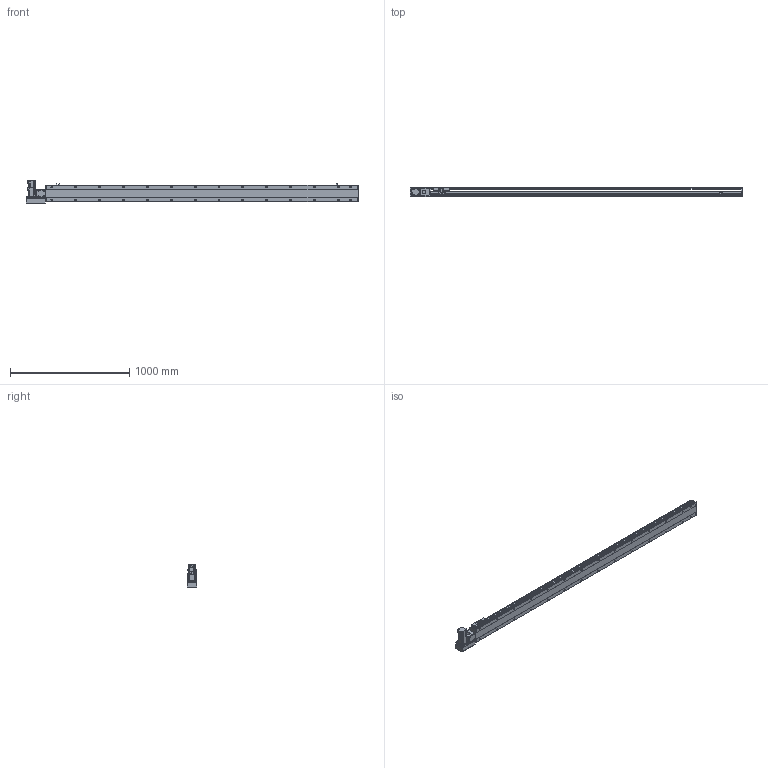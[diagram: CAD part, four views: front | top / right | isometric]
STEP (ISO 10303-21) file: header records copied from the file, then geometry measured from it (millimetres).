
FILE_DESCRIPTION(/* description */ ('STEP AP214'),/* implementation_level */ '2;1');
FILE_NAME(/* name */ 'PBS140-P40-S2350-L-T40-C1-N(0)',/* time_stamp */ '2022-06-06T03:06:59+02:00',/* author */ ('License CC BY-ND 4.0'),/* organization */ ('CADENAS'),/* preprocessor_version */ 'ST-DEVELOPER v18.102',/* originating_system */ 'PARTsolutions',/* authorisation */ ' ');
FILE_SCHEMA (('AUTOMOTIVE_DESIGN {1 0 10303 214 3 1 1}'));
Length unit declared in the file: millimetre
Products named in the file (7): PBS140-P40-S2350-L-T40-C1-N(0); PBS140_sensor; PBS140_plant; PBS140_sliser; T40-p1; PBS140T-L_motors; PBS140-S2350()_body
Assembly tree (8 placements, depth 2):
  PBS140-P40-S2350-L-T40-C1-N(0)
    PBS140_sensor  x3
    PBS140_plant
    PBS140_sliser
    T40-p1
    PBS140T-L_motors
    PBS140-S2350()_body
Bounding box: 2783 x 80.5 x 189.7 mm (x, y, z)
Volume: 12171130.3 mm3; surface area: 2076253.2 mm2
Topology: 8 solids, 8 shells, 1171 faces, 3076 edges, 2009 vertices
Faces by surface type: plane 728, cylinder 379, cone 54, sphere 8, torus 2
Full cylindrical faces by diameter (mm): 3.242 x4, 4 x2, 4.134 x4, 4.4 x8, 4.5 x2, 4.8 x4, 4.917 x36, 5.5 x7, 6 x2, 7 x30, 7.5 x8, 8 x12, 8.5 x4, 10.5 x28, 14 x1, 30 x2, 50 x2
Entity records: 33393 total; most frequent: CARTESIAN_POINT 6337, DIRECTION 5617, ORIENTED_EDGE 5272, EDGE_CURVE 2636, AXIS2_PLACEMENT_3D 1987, VERTEX_POINT 1845, LINE 1643, VECTOR 1643
